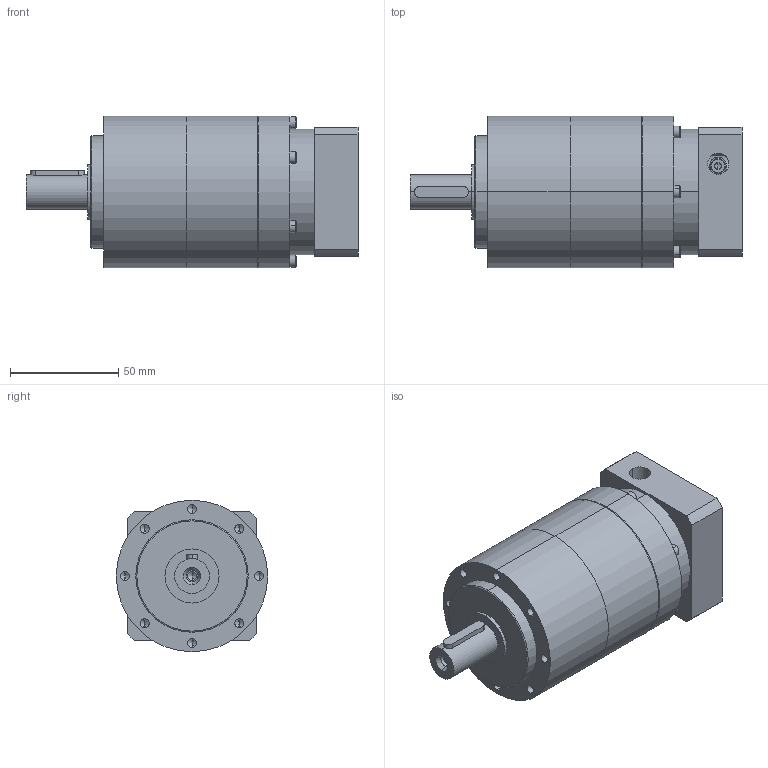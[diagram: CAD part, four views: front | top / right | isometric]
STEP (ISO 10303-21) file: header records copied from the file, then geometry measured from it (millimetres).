
FILE_DESCRIPTION (( 'STEP AP203' ), '1' );
FILE_NAME ('6C2XD.050060.021.STEP', '2019-06-20T00:30:21', ( '' ), ( '' ), 'SwSTEP 2.0', 'SolidWorks 2010', '' );
FILE_SCHEMA (( 'CONFIG_CONTROL_DESIGN' ));
Length unit declared in the file: millimetre
Products named in the file (9): 雙圓鍵5×5_Default; 6C2XD.050060.021; PHF60-馬達連接板-2341F22110_4.成品; 沉頭內六角M4x0.7x15L_CB4-5; 沉頭內六角M4x0.7x18L_CB4-5; PGCH70-EB(模型)_3.插齒; 沉頭內六角M3x55_CB3-5; PGCH70-B(模型)_6.成品3-4-5-7-10 108T; PGCH70-BP14(模型)_PGLH60後蓋成品
Assembly tree (16 placements, depth 2):
  6C2XD.050060.021
    沉頭內六角M3x55_CB3-5  x6
    PGCH70-BP14(模型)_PGLH60後蓋成品
    沉頭內六角M4x0.7x18L_CB4-5  x4
    沉頭內六角M4x0.7x15L_CB4-5
    PGCH70-EB(模型)_3.插齒
    PGCH70-B(模型)_6.成品3-4-5-7-10 108T
    PHF60-馬達連接板-2341F22110_4.成品
    雙圓鍵5×5_Default
Bounding box: 153.5 x 70 x 70 mm (x, y, z)
Volume: 424201.8 mm3; surface area: 76381.5 mm2
Topology: 16 solids, 16 shells, 510 faces, 1192 edges, 702 vertices
Faces by surface type: plane 204, cylinder 183, cone 119, torus 4
Entity records: 10301 total; most frequent: CARTESIAN_POINT 1759, DIRECTION 1698, ORIENTED_EDGE 1404, EDGE_CURVE 702, AXIS2_PLACEMENT_3D 685, VERTEX_POINT 448, EDGE_LOOP 390, CIRCLE 356
